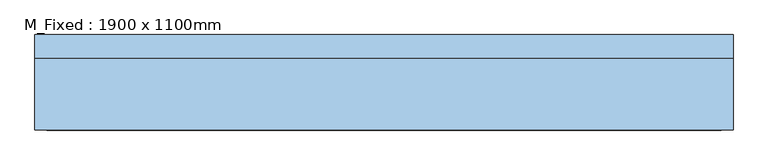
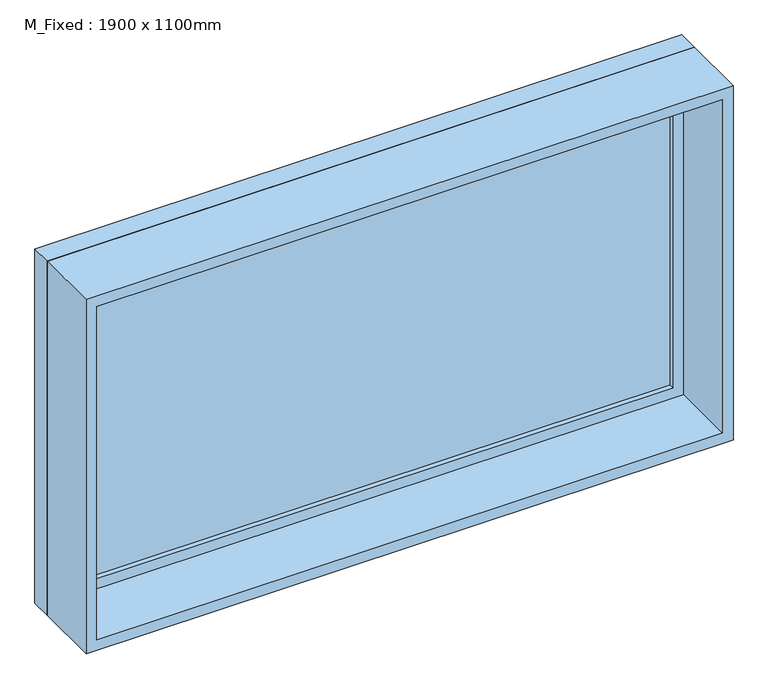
"""IFC4 building model written with IfcOpenShell, lengths in millimetres: window geometry, M_Fixed : 1900 x 1100mm."""

import ifcopenshell
import ifcopenshell.guid

model = None  # the IFC model being written
_history = None  # IfcOwnerHistory: only IFC2X3 demands one
_inside = {}  # id of a spatial element -> (the spatial element, [elements in it])
_under = {}  # id of a project, library or spatial element -> (it, [spatial elements below it])
_declared = {}  # id of a project -> (the project, [libraries it declares])
_typed = {}  # id of a type object -> (the type object, [elements of that type])
_made_of = {}  # id of a material, layer set ... -> (it, [elements and type objects made of it])


def new_model(schema):
    """Start an empty IFC model of exactly this schema.

    Asked for "IFC4X3", IfcOpenShell would pick the latest addendum, in which some entities
    have other attributes; the version numbers below select the first issue.
    IFC2X3 requires an IfcOwnerHistory on every rooted entity: one is made here for all.
    """
    global model, _history
    if schema == "IFC4X3":
        model = ifcopenshell.file(schema_version=(4, 3, 0, 0))
    else:
        model = ifcopenshell.file(schema=schema)
    _inside.clear()
    _under.clear()
    _declared.clear()
    _typed.clear()
    _made_of.clear()
    _history = None
    if model.schema == "IFC2X3":
        org = make("IfcOrganization", Name="unknown")
        user = make(
            "IfcPersonAndOrganization",
            ThePerson=make("IfcPerson", FamilyName="unknown"),
            TheOrganization=org,
        )
        app = make(
            "IfcApplication",
            ApplicationDeveloper=org,
            Version="unknown",
            ApplicationFullName="unknown",
            ApplicationIdentifier="unknown",
        )
        _history = make(
            "IfcOwnerHistory",
            OwningUser=user,
            OwningApplication=app,
            ChangeAction="ADDED",
            CreationDate=0,
        )
    return model


def make(cls, **values):
    """One entity of the class cls with the attributes given. An attribute that is None is left unset."""
    return model.create_entity(
        cls, **{name: value for name, value in values.items() if value is not None}
    )


def rooted(cls, **values):
    """An entity with a GlobalId (a new one), such as an element, a storey or a relation."""
    return make(cls, GlobalId=ifcopenshell.guid.new(), OwnerHistory=_history, **values)


def si_unit(unit_type, name, prefix=None):
    """IfcSIUnit, for example si_unit("LENGTHUNIT", "METRE", prefix="MILLI")."""
    return make("IfcSIUnit", UnitType=unit_type, Prefix=prefix, Name=name)


def assignment(units):
    """IfcUnitAssignment: the units of a project."""
    return None if units is None else make("IfcUnitAssignment", Units=units)


def point(xyz):
    """IfcCartesianPoint."""
    return None if xyz is None else make("IfcCartesianPoint", Coordinates=xyz)


def direction(xyz):
    """IfcDirection."""
    return None if xyz is None else make("IfcDirection", DirectionRatios=xyz)


def frame(location, z_axis=None, x_axis=None):
    """IfcAxis2Placement3D, a coordinate frame: its origin and axes. An axis left out is left unset."""
    return make(
        "IfcAxis2Placement3D",
        Location=point(location),
        Axis=direction(z_axis),
        RefDirection=direction(x_axis),
    )


def origin():
    """The frame at (0, 0, 0) with its axes left unset."""
    return frame((0.0, 0.0, 0.0))


def place(relative_to, where):
    """IfcLocalPlacement: puts the frame where relative to a parent placement (None: the world)."""
    return make(
        "IfcLocalPlacement", PlacementRelTo=relative_to, RelativePlacement=where
    )


def context(
    kind, dimensions, precision=None, world=None, true_north=None, identifier=None
):
    """IfcGeometricRepresentationContext, for example the 3D "Model" context."""
    return make(
        "IfcGeometricRepresentationContext",
        ContextIdentifier=identifier,
        ContextType=kind,
        CoordinateSpaceDimension=dimensions,
        Precision=precision,
        WorldCoordinateSystem=world,
        TrueNorth=true_north,
    )


def project(units=None, contexts=None):
    """IfcProject with its units and contexts."""
    return rooted(
        "IfcProject",
        Name="project",
        RepresentationContexts=contexts,
        UnitsInContext=assignment(units),
    )


def spatial(cls, under=None, at=None, **own):
    """A site, building, storey or space (cls), placed at a placement, below another one or the project."""
    s = rooted(cls, ObjectPlacement=at, **own)
    if under is not None:
        _under.setdefault(under.id(), (under, []))[1].append(s)
    return s


def polyline(points):
    """IfcPolyline through the points."""
    return make("IfcPolyline", Points=[point(p) for p in points])


def outline(outer, holes=None, kind="AREA"):
    """IfcArbitraryClosedProfileDef: a profile drawn as a closed curve; with holes, ...WithVoids."""
    if holes is None:
        return make("IfcArbitraryClosedProfileDef", ProfileType=kind, OuterCurve=outer)
    return make(
        "IfcArbitraryProfileDefWithVoids",
        ProfileType=kind,
        OuterCurve=outer,
        InnerCurves=holes,
    )


def extrude(swept, where, along, depth):
    """IfcExtrudedAreaSolid: the profile swept, set in the frame where, extruded along a direction by depth."""
    return make(
        "IfcExtrudedAreaSolid",
        SweptArea=swept,
        Position=where,
        ExtrudedDirection=direction(along),
        Depth=depth,
    )


def shape(context_of_items, identifier, shape_type, items):
    """IfcShapeRepresentation: the items that make up one representation, for example the "Body"."""
    return make(
        "IfcShapeRepresentation",
        ContextOfItems=context_of_items,
        RepresentationIdentifier=identifier,
        RepresentationType=shape_type,
        Items=items,
    )


def source(mapping_origin, context_of_items, identifier, shape_type, items):
    """IfcRepresentationMap: a shape defined once, which mapped items show again and again."""
    return make(
        "IfcRepresentationMap",
        MappingOrigin=mapping_origin,
        MappedRepresentation=shape(context_of_items, identifier, shape_type, items),
    )


def transform(
    local_origin,
    x_axis=None,
    y_axis=None,
    z_axis=None,
    scale=None,
    scale2=None,
    scale3=None,
    uniform=True,
):
    """IfcCartesianTransformationOperator3D, or its non-uniform kind. x_axis, y_axis, z_axis: its Axis1, 2, 3."""
    if uniform:
        return make(
            "IfcCartesianTransformationOperator3D",
            Axis1=direction(x_axis),
            Axis2=direction(y_axis),
            LocalOrigin=point(local_origin),
            Scale=scale,
            Axis3=direction(z_axis),
        )
    return make(
        "IfcCartesianTransformationOperator3DnonUniform",
        Axis1=direction(x_axis),
        Axis2=direction(y_axis),
        LocalOrigin=point(local_origin),
        Scale=scale,
        Axis3=direction(z_axis),
        Scale2=scale2,
        Scale3=scale3,
    )


def mapped(mapping_source, mapping_target):
    """IfcMappedItem: shows the shape of a source again, moved by a transform."""
    return make(
        "IfcMappedItem", MappingSource=mapping_source, MappingTarget=mapping_target
    )


def made_of(thing, what):
    """Note that an element or type object is made of a material, layer set ...; save() writes the relation."""
    if what is not None:
        _made_of.setdefault(what.id(), (what, []))[1].append(thing)
    return thing


def element(
    cls,
    number,
    at=None,
    inside=None,
    cuts=None,
    type_object=None,
    material=None,
    context=None,
    identifier="Body",
    shape_type=None,
    held_by="IfcProductDefinitionShape",
    body=None,
    shapes=None,
    **own,
):
    """One element of the class cls, such as IfcWall. Its Tag is "e" and its number.

    at: its placement. inside: the storey or other place that contains it. cuts: it is an
    opening in that element (IfcRelVoidsElement). A single representation is given by context,
    identifier, shape_type and body (its items); several are given by shapes. held_by: the class
    of the entity that holds the representations. save() writes the other relations.
    """
    e = rooted(cls, Tag="e%d" % number, ObjectPlacement=at, **own)
    if body is not None:
        shapes = [shape(context, identifier, shape_type, body)]
    if shapes is not None:
        e.Representation = make(held_by, Representations=shapes)
    if inside is not None:
        _inside.setdefault(inside.id(), (inside, []))[1].append(e)
    if cuts is not None:
        rooted(
            "IfcRelVoidsElement", RelatingBuildingElement=cuts, RelatedOpeningElement=e
        )
    if type_object is not None:
        _typed.setdefault(type_object.id(), (type_object, []))[1].append(e)
    return made_of(e, material)


def aggregate(whole, parts):
    """IfcRelAggregates: a whole, such as a stair, and the parts it consists of."""
    return rooted("IfcRelAggregates", RelatingObject=whole, RelatedObjects=parts)


def save(model, path):
    """Write the relations noted so far, then the file.

    IfcRelAggregates (storeys below a building ...), IfcRelContainedInSpatialStructure (elements
    in a storey), IfcRelDefinesByType, IfcRelAssociatesMaterial and IfcRelDeclares: one each for
    every whole, place, type object, material and project.
    """
    for whole, parts in _under.values():
        aggregate(whole, parts)
    for where, things in _inside.values():
        rooted(
            "IfcRelContainedInSpatialStructure",
            RelatedElements=things,
            RelatingStructure=where,
        )
    for kind, things in _typed.values():
        rooted("IfcRelDefinesByType", RelatedObjects=things, RelatingType=kind)
    for what, things in _made_of.values():
        rooted("IfcRelAssociatesMaterial", RelatedObjects=things, RelatingMaterial=what)
    for by, libraries in _declared.values():
        rooted("IfcRelDeclares", RelatingContext=by, RelatedDefinitions=libraries)
    model.write(path)


def m_fixed_1900_x_1100mm_ff859e30(model_context):
    return source(origin(), model_context, "Body", "SweptSolid", [
        extrude(outline(polyline([(-887.0, 108.0), (887.0, 108.0), (887.0, 96.0), (-887.0, 96.0), (-887.0, 108.0)])), frame((0.0, 0.0, 978.0), z_axis=(0.0, 0.0, 1.0), x_axis=(1.0, 0.0, 0.0)), (0.0, 0.0, 1.0), 974.0),
        extrude(outline(polyline([(1996.0, -931.0), (934.0, -931.0), (934.0, 931.0), (1996.0, 931.0), (1996.0, -931.0)]), holes=[polyline([(1952.0, -887.0), (1952.0, 887.0), (978.0, 887.0), (978.0, -887.0), (1952.0, -887.0)])]), frame((0.0, 80.0, 0.0), z_axis=(0.0, 1.0, 0.0), x_axis=(0.0, 0.0, 1.0)), (0.0, 0.0, 1.0), 44.0),
        extrude(outline(polyline([(2015.0, -950.0), (915.0, -950.0), (915.0, 950.0), (2015.0, 950.0), (2015.0, -950.0)]), holes=[polyline([(1996.0, -931.0), (1996.0, 931.0), (934.0, 931.0), (934.0, -931.0), (1996.0, -931.0)])]), frame((0.0, 80.0, 0.0), z_axis=(0.0, 1.0, 0.0), x_axis=(0.0, 0.0, 1.0)), (0.0, 0.0, 1.0), 63.0),
        extrude(outline(polyline([(2015.0, -950.0), (915.0, -950.0), (915.0, 950.0), (2015.0, 950.0), (2015.0, -950.0)]), holes=[polyline([(1983.0, -918.0), (1983.0, 918.0), (947.0, 918.0), (947.0, -918.0), (1983.0, -918.0)])]), frame((0.0, -117.0, 0.0), z_axis=(0.0, 1.0, 0.0), x_axis=(0.0, 0.0, 1.0)), (0.0, 0.0, 1.0), 197.0),
    ])


if __name__ == "__main__":
    model = new_model("IFC4")
    model_context = context("Model", 3, world=origin())
    ifc_project = project(units=[si_unit("LENGTHUNIT", "METRE", prefix="MILLI")], contexts=[model_context])
    site = spatial("IfcSite", under=ifc_project)
    building = spatial("IfcBuilding", under=site)
    placement = place(None, origin())
    m_fixed_1900_x_1100mm_shape = m_fixed_1900_x_1100mm_ff859e30(model_context)
    element("IfcWindow", 1, ObjectType="M_Fixed : 1900 x 1100mm", at=placement, inside=building, context=model_context, shape_type="MappedRepresentation", body=[
        mapped(m_fixed_1900_x_1100mm_shape, transform((0.0, 0.0, 0.0), x_axis=(1.0, 0.0, 0.0), y_axis=(0.0, 1.0, 0.0), z_axis=(0.0, 0.0, 1.0))),
    ])
    save(model, "model.ifc")
